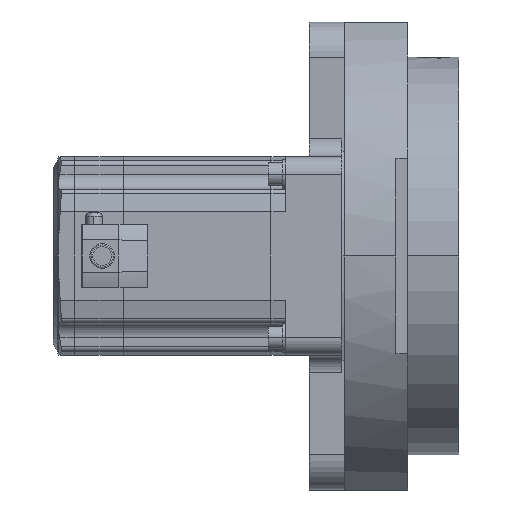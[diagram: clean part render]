
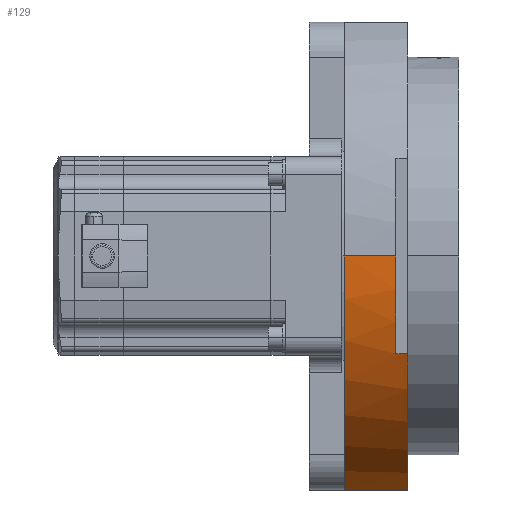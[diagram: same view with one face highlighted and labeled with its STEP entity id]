
A CAD part, front view. The second image highlights one B-rep face of the part: STEP entity #129.
In plain terms, the highlighted cylindrical face has radius 107 mm (diameter 214 mm), a partial arc.
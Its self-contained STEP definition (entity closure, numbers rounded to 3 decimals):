
#129 = ADVANCED_FACE( '', ( #755 ), #756, .T. );
#755 = FACE_OUTER_BOUND( '', #2046, .T. );
#756 = CYLINDRICAL_SURFACE( '', #2047, 107. );
#2046 = EDGE_LOOP( '', ( #3367, #3368, #3369, #3370, #3371, #3372 ) );
#2047 = AXIS2_PLACEMENT_3D( '', #3373, #3374, #3375 );
#3367 = ORIENTED_EDGE( '', *, *, #8568, .F. );
#3368 = ORIENTED_EDGE( '', *, *, #8569, .F. );
#3369 = ORIENTED_EDGE( '', *, *, #8570, .T. );
#3370 = ORIENTED_EDGE( '', *, *, #8571, .T. );
#3371 = ORIENTED_EDGE( '', *, *, #8572, .T. );
#3372 = ORIENTED_EDGE( '', *, *, #8573, .T. );
#3373 = CARTESIAN_POINT( '', ( -35.5, 0., 0. ) );
#3374 = DIRECTION( '', ( 1., 0., 0. ) );
#3375 = DIRECTION( '', ( 0., 1., 0. ) );
#8568 = EDGE_CURVE( '', #10273, #10274, #10275, .T. );
#8569 = EDGE_CURVE( '', #10276, #10273, #10277, .T. );
#8570 = EDGE_CURVE( '', #10276, #10278, #10279, .T. );
#8571 = EDGE_CURVE( '', #10278, #10280, #10281, .T. );
#8572 = EDGE_CURVE( '', #10280, #10282, #10283, .T. );
#8573 = EDGE_CURVE( '', #10282, #10274, #10284, .T. );
#10273 = VERTEX_POINT( '', #13073 );
#10274 = VERTEX_POINT( '', #13074 );
#10275 = LINE( '', #13075, #13076 );
#10276 = VERTEX_POINT( '', #13077 );
#10277 = CIRCLE( '', #13078, 107. );
#10278 = VERTEX_POINT( '', #13079 );
#10279 = LINE( '', #13080, #13081 );
#10280 = VERTEX_POINT( '', #13082 );
#10281 = CIRCLE( '', #13083, 107. );
#10282 = VERTEX_POINT( '', #13084 );
#10283 = LINE( '', #13085, #13086 );
#10284 = CIRCLE( '', #13087, 107. );
#13073 = CARTESIAN_POINT( '', ( -49., -107., 0. ) );
#13074 = CARTESIAN_POINT( '', ( -27., -107., 0. ) );
#13075 = CARTESIAN_POINT( '', ( -35.5, -107., 0. ) );
#13076 = VECTOR( '', #17451, 1. );
#13077 = CARTESIAN_POINT( '', ( -49., -38.066, -100. ) );
#13078 = AXIS2_PLACEMENT_3D( '', #17452, #17453, #17454 );
#13079 = CARTESIAN_POINT( '', ( -22., -38.066, -100. ) );
#13080 = CARTESIAN_POINT( '', ( -35.5, -38.066, -100. ) );
#13081 = VECTOR( '', #17455, 1. );
#13082 = CARTESIAN_POINT( '', ( -22., -98.5, -41.794 ) );
#13083 = AXIS2_PLACEMENT_3D( '', #17456, #17457, #17458 );
#13084 = CARTESIAN_POINT( '', ( -27., -98.5, -41.794 ) );
#13085 = CARTESIAN_POINT( '', ( -24.5, -98.5, -41.794 ) );
#13086 = VECTOR( '', #17459, 1. );
#13087 = AXIS2_PLACEMENT_3D( '', #17460, #17461, #17462 );
#17451 = DIRECTION( '', ( 1., 0., 0. ) );
#17452 = CARTESIAN_POINT( '', ( -49., 0., 0. ) );
#17453 = DIRECTION( '', ( -1., 0., 0. ) );
#17454 = DIRECTION( '', ( 0., 1., 0. ) );
#17455 = DIRECTION( '', ( 1., 0., 0. ) );
#17456 = CARTESIAN_POINT( '', ( -22., 0., 0. ) );
#17457 = DIRECTION( '', ( -1., 0., 0. ) );
#17458 = DIRECTION( '', ( 0., 1., 0. ) );
#17459 = DIRECTION( '', ( -1., 0., 0. ) );
#17460 = CARTESIAN_POINT( '', ( -27., 0., 0. ) );
#17461 = DIRECTION( '', ( -1., 0., 0. ) );
#17462 = DIRECTION( '', ( 0., 1., 0. ) );
